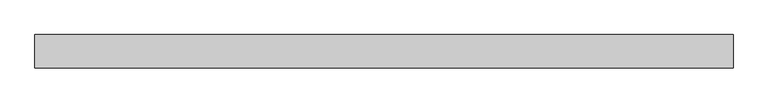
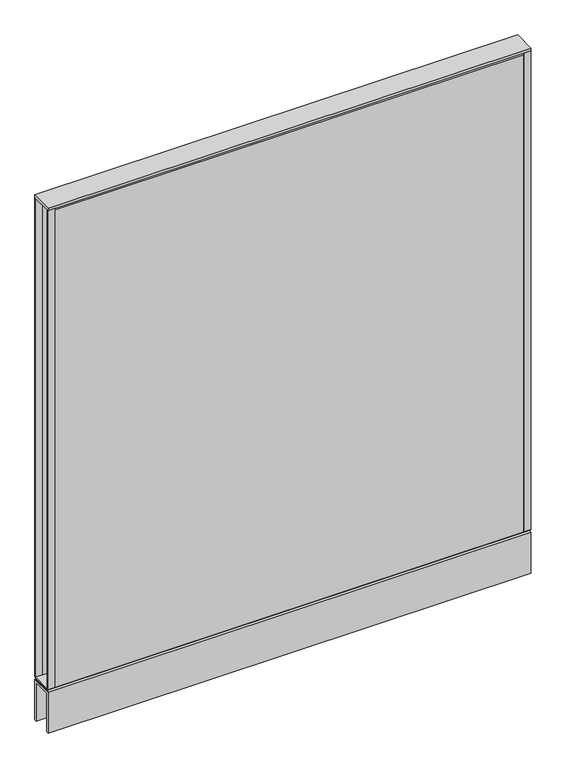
"""IFC4 building model written with IfcOpenShell, lengths in millimetres: furniture geometry, Steelcase - Kick Solutions - Panel - Monolithic - Tackable Acoustical : 48H x 42W."""

from ifc_helpers import new_model, si_unit, frame, origin, place, context, project, spatial, polyline, outline, extrude, source, transform, mapped, element, save


def furniture_3285f5b7(model_context):
    return source(origin(), model_context, "Body", "SweptSolid", [
        extrude(outline(polyline([(0.0, 101.7169049), (-3.1750015, 101.7169049), (-3.1750015, 1219.3169018), (0.0, 1216.2357466), (0.0, 101.7169049)])), frame((15.8749996, 0.0, 0.0), z_axis=(1.0, 0.0, 0.0), x_axis=(0.0, 1.0, 0.0)), (0.0, 0.0, 1.0), 1035.0500008),
        extrude(outline(polyline([(-50.8000015, 101.7169049), (-50.8000015, 1216.2357466), (-47.625, 1219.3169018), (-47.625, 101.7169049), (-50.8000015, 101.7169049)])), frame((15.8749996, 0.0, 0.0), z_axis=(1.0, 0.0, 0.0), x_axis=(0.0, 1.0, 0.0)), (0.0, 0.0, 1.0), 1035.0500008),
        extrude(outline(polyline([(1066.8, -3.1750015), (1050.9250004, -3.1750015), (1050.9250004, 0.0), (1066.8, 0.0), (1066.8, -3.1750015)])), frame((0.0, 0.0, 101.7169049), z_axis=(0.0, 0.0, 1.0), x_axis=(1.0, 0.0, 0.0)), (0.0, 0.0, 1.0), 1117.599997),
        extrude(outline(polyline([(15.8749996, -50.8000015), (0.0, -50.8000015), (0.0, -47.625), (15.8749996, -47.625), (15.8749996, -50.8000015)])), frame((0.0, 0.0, 101.7169049), z_axis=(0.0, 0.0, 1.0), x_axis=(1.0, 0.0, 0.0)), (0.0, 0.0, 1.0), 1117.599997),
        extrude(outline(polyline([(-50.7995075, 101.7169049), (-0.000494, 101.7169049), (-3.0583512, 98.5421458), (-47.7416503, 98.5421458), (-50.7995075, 101.7169049)])), frame((0.0, 0.0, 0.0), z_axis=(1.0, 0.0, 0.0), x_axis=(0.0, 1.0, 0.0)), (0.0, 0.0, 1.0), 1066.8),
        extrude(outline(polyline([(1066.8, 0.0), (1066.8, -50.8000015), (0.0, -50.8000015), (0.0, 0.0), (1066.8, 0.0)])), frame((0.0, 0.0, 1219.3169018), z_axis=(0.0, 0.0, 1.0), x_axis=(1.0, 0.0, 0.0)), (0.0, 0.0, 1.0), 6.35),
        extrude(outline(polyline([(15.8749996, -3.1750015), (0.0, -3.1750015), (0.0, 0.0), (15.8749996, 0.0), (15.8749996, -3.1750015)])), frame((0.0, 0.0, 101.7169049), z_axis=(0.0, 0.0, 1.0), x_axis=(1.0, 0.0, 0.0)), (0.0, 0.0, 1.0), 1117.599997),
        extrude(outline(polyline([(1066.8, -50.8000015), (1050.9250004, -50.8000015), (1050.9250004, -47.625), (1066.8, -47.625), (1066.8, -50.8000015)])), frame((0.0, 0.0, 101.7169049), z_axis=(0.0, 0.0, 1.0), x_axis=(1.0, 0.0, 0.0)), (0.0, 0.0, 1.0), 1117.599997),
        extrude(outline(polyline([(-50.8000015, 95.3668927), (-47.6247484, 98.5421458), (-3.1752531, 98.5421458), (0.0, 95.3668927), (-50.8000015, 95.3668927)])), frame((0.0, 0.0, 0.0), z_axis=(1.0, 0.0, 0.0), x_axis=(0.0, 1.0, 0.0)), (0.0, 0.0, 1.0), 1066.8),
        extrude(outline(polyline([(0.0, 0.0), (-5.08, 0.0), (-5.08, 90.2869018), (-45.7200015, 90.2869018), (-45.7200015, 0.0), (-50.8000015, 0.0), (-50.8000015, 95.3669018), (0.0, 95.3669018), (0.0, 0.0)])), frame((0.0, 0.0, 0.0), z_axis=(1.0, 0.0, 0.0), x_axis=(0.0, 1.0, 0.0)), (0.0, 0.0, 1.0), 1066.8),
    ])


if __name__ == "__main__":
    model = new_model("IFC4")
    model_context = context("Model", 3, world=origin())
    ifc_project = project(units=[si_unit("LENGTHUNIT", "METRE", prefix="MILLI")], contexts=[model_context])
    site = spatial("IfcSite", under=ifc_project)
    building = spatial("IfcBuilding", under=site)
    placement = place(None, origin())
    furniture_shape = furniture_3285f5b7(model_context)
    element("IfcFurniture", 1, ObjectType="Steelcase - Kick Solutions - Panel - Monolithic - Tackable Acoustical : 48H x 42W", at=placement, inside=building, context=model_context, shape_type="MappedRepresentation", body=[
        mapped(furniture_shape, transform((0.0, 0.0, 0.0), x_axis=(1.0, 0.0, 0.0), y_axis=(0.0, 1.0, 0.0), z_axis=(0.0, 0.0, 1.0))),
    ])
    save(model, "model.ifc")
